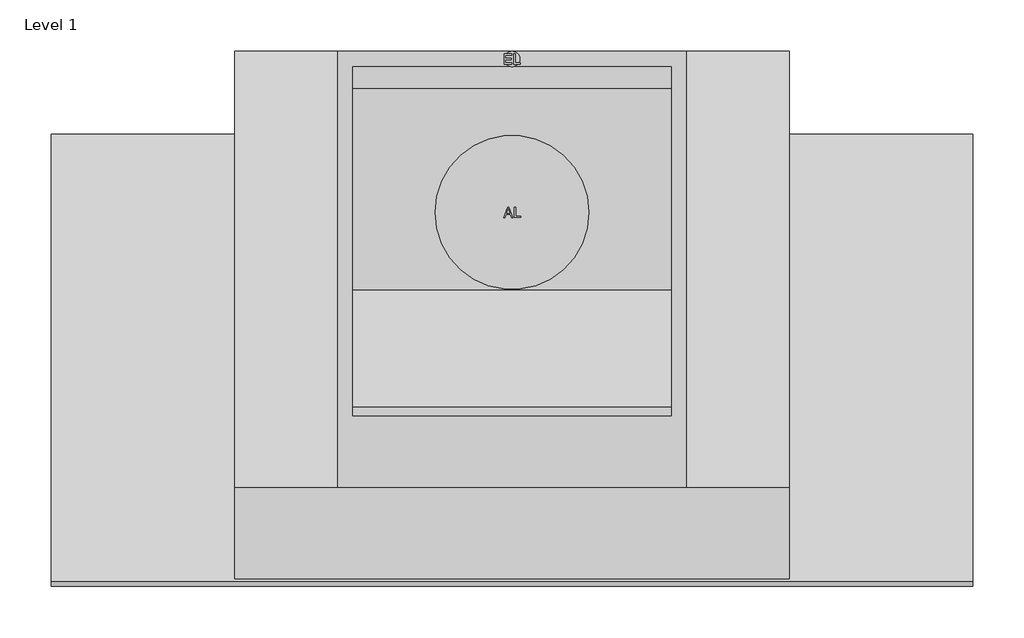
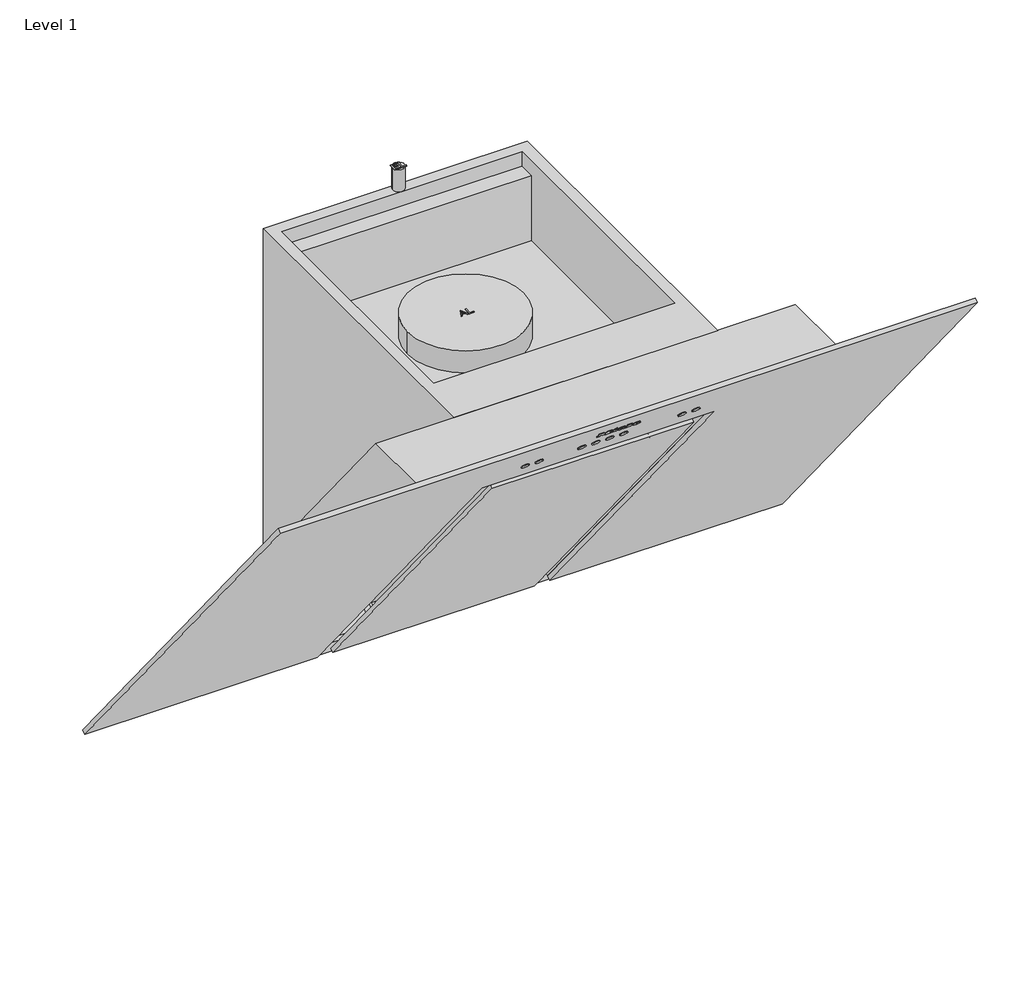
# One storey: 1 proxy.
"""IFC4 building model written with IfcOpenShell, lengths in millimetres."""

from ifc_helpers import new_model, si_unit, origin, place, context, project, spatial, transform, mapped, element, save
from components import specialty_equipment_2009af76

model = new_model("IFC4")

# Units and contexts
model_context = context("Model", 3, world=origin())
ifc_project = project(units=[si_unit("LENGTHUNIT", "METRE", prefix="MILLI")], contexts=[model_context])

# Site, building, storey
site = spatial("IfcSite", under=ifc_project)
building = spatial("IfcBuilding", under=site)
storey = spatial("IfcBuildingStorey", under=building, Name="Level 1", Elevation=0.0)

# Proxy
placement = place(None, origin())
specialty_equipment_shape = specialty_equipment_2009af76(model_context)
element("IfcBuildingElementProxy", 1, Name="10837570_RU_DA6498W_OBSW : 28649840_RU_10837570_DA6498W_OBSW", ObjectType="10837570_RU_DA6498W_OBSW : 28649840_RU_10837570_DA6498W_OBSW", at=placement, inside=storey, context=model_context, shape_type="MappedRepresentation", body=[
    mapped(specialty_equipment_shape, transform((0.0, 0.0, 0.0), x_axis=(1.0, 0.0, 0.0), y_axis=(0.0, 1.0, 0.0), z_axis=(0.0, 0.0, 1.0))),
])

save(model, "model.ifc")
